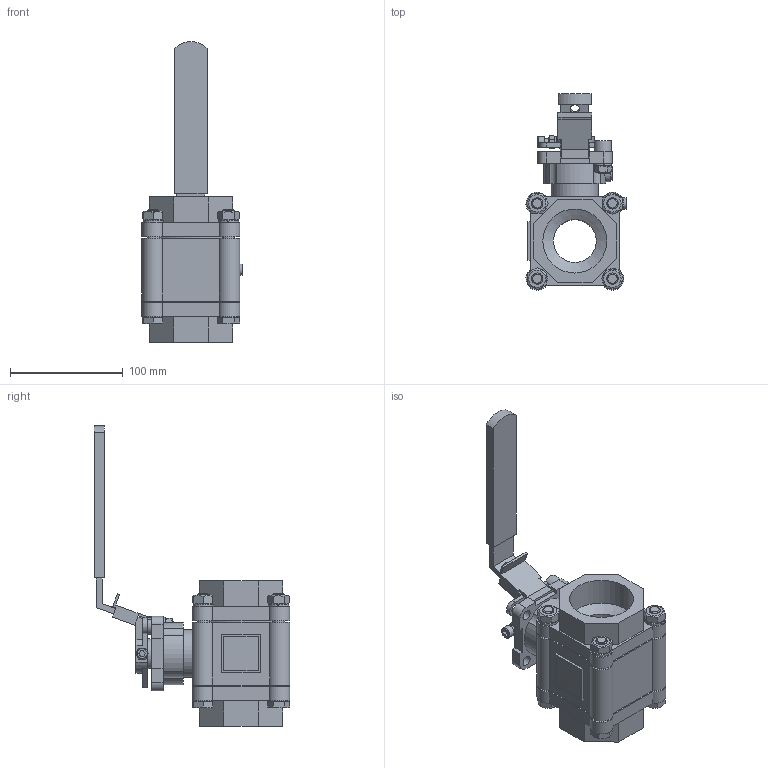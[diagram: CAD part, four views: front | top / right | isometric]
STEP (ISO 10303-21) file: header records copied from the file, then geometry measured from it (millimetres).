
FILE_DESCRIPTION(/* description */ ('Eriks item no:13278905'),/* implementation_level */ '2;1');
FILE_NAME(/* name */ 'L:\DATA\ENG\Inventor\Econ 3D modellen\kogelkranen\7442\Rubens Versie\7442-DN50-RB.stp',/* time_stamp */ '2023-06-08T08:03:35+02:00',/* author */ ('roger.thijssen'),/* organization */ (''),/* preprocessor_version */ 'ST-DEVELOPER v18',/* originating_system */ 'Autodesk Inventor 2020',/* authorisation */ '');
FILE_SCHEMA (('CONFIG_CONTROL_DESIGN'));
Length unit declared in the file: millimetre
Products named in the file (1): Ball valve, 7442 - 2" - RB, (TF4103)
Bounding box: 88.57 x 173.28 x 266.5 mm (x, y, z)
Volume: 697250.4 mm3; surface area: 141447.7 mm2
Topology: 1 solids, 1 shells, 609 faces, 1603 edges, 1050 vertices
Faces by surface type: plane 384, cylinder 133, cone 60, bspline 30, torus 2
Full cylindrical faces by diameter (mm): 6 x1, 6.4 x1, 8 x3, 8.9 x1, 9 x5, 10 x10, 11 x12, 12 x1, 15.5 x1, 15.6 x4, 38 x1, 42 x2, 55 x1, 56.656 x2, 78.5 x2
Entity records: 19326 total; most frequent: CARTESIAN_POINT 4199, ORIENTED_EDGE 3204, DIRECTION 2977, EDGE_CURVE 1602, VERTEX_POINT 1050, AXIS2_PLACEMENT_3D 1029, LINE 919, VECTOR 919
